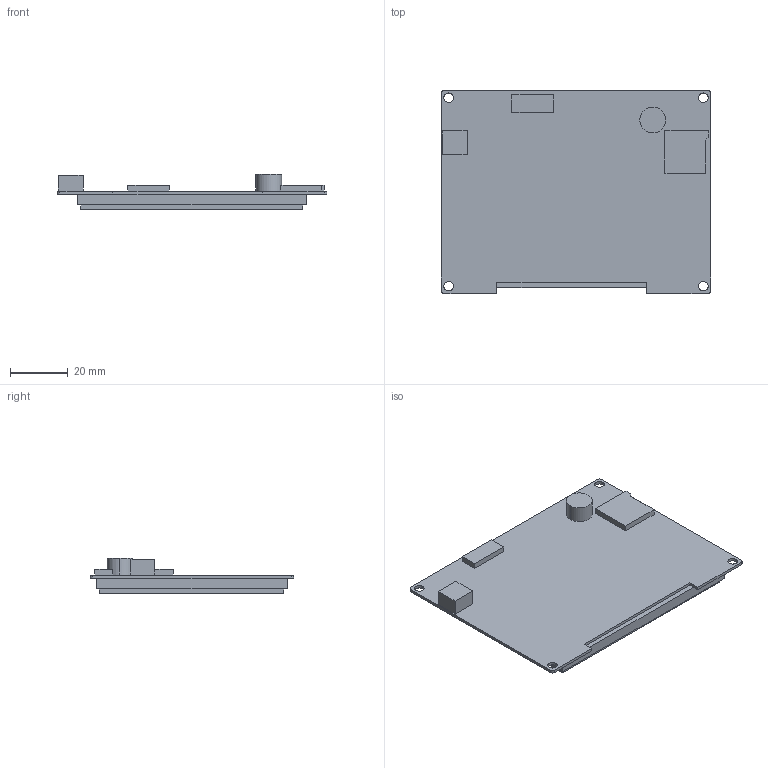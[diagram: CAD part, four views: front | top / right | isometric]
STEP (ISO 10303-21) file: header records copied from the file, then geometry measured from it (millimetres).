
FILE_DESCRIPTION((''),'2;1');
FILE_NAME('DMG32240S035_03W','2022-10-19T',('Administrator'),(''),'PRO/ENGINEER BY PARAMETRIC TECHNOLOGY CORPORATION, 2008380','PRO/ENGINEER BY PARAMETRIC TECHNOLOGY CORPORATION, 2008380','');
FILE_SCHEMA(('CONFIG_CONTROL_DESIGN'));
Length unit declared in the file: millimetre
Products named in the file (1): DMG32240S035_03W
Bounding box: 92.96 x 70.1 x 12.2 mm (x, y, z)
Volume: 33547.3 mm3; surface area: 23445.4 mm2
Topology: 1 solids, 2 shells, 59 faces, 15355 edges, 26000 vertices
Faces by surface type: plane 45, cylinder 14
Entity records: 82381 total; most frequent: DIRECTION 19989, CARTESIAN_POINT 15513, TRIMMED_CURVE 15207, VECTOR 10841, LINE 10841, AXIS2_PLACEMENT_3D 4574, CIRCLE 4514, ORIENTED_EDGE 296
